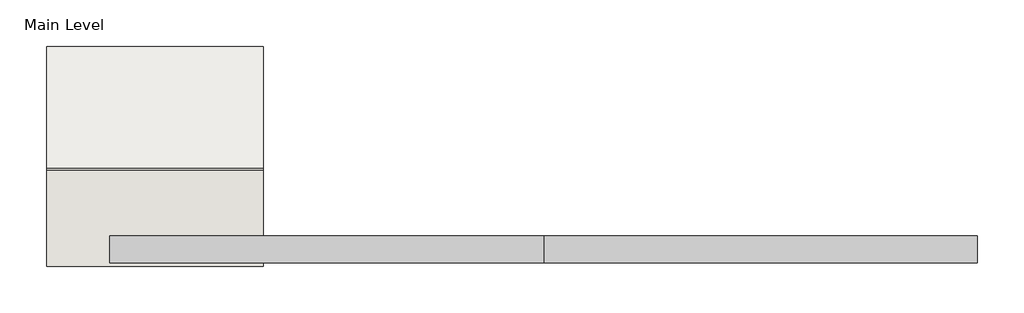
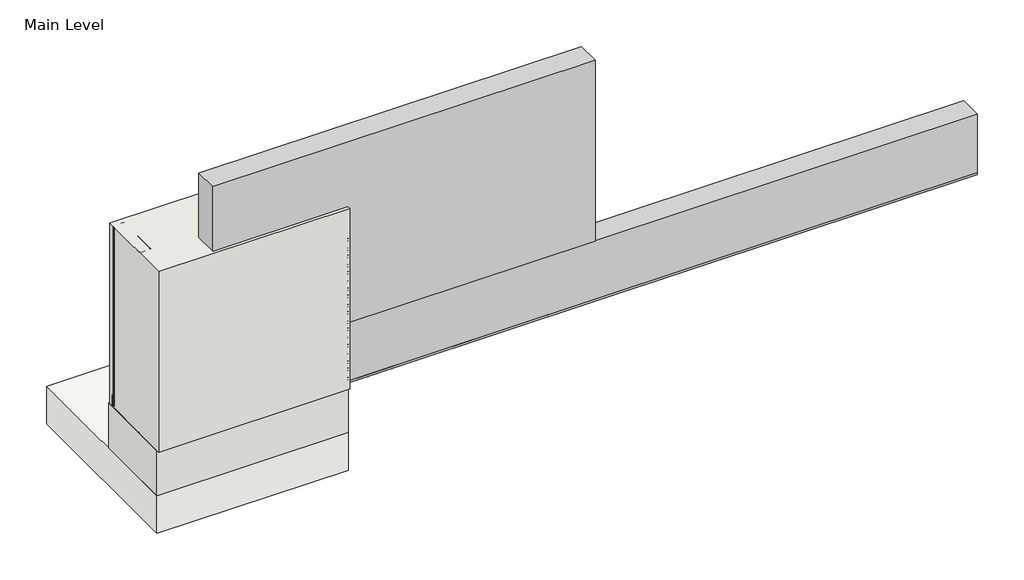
# One storey, incomplete: 6 proxies, 2 walls, 1 slab.
"""IFC4 building model written with IfcOpenShell, lengths in millimetres."""

from ifc_helpers import new_model, si_unit, frame, origin, origin_with_axes, place, context, project, spatial, polyline, outline, extrude, transform, mapped, element, save
from components import generic_models_31547c53, generic_models_0bbfdc8f, generic_models_1e1ad44f, generic_models_7dd17a53, generic_models_441de798, generic_models_9d0e7a2a, proxy_81afb05a, proxy_e5e434bb, wood_blocking_9d9260b2

model = new_model("IFC4")

# Units and contexts
model_context = context("Model", 3, world=origin())
ifc_project = project(units=[si_unit("LENGTHUNIT", "METRE", prefix="MILLI")], contexts=[model_context])

# Site, building, storey
site = spatial("IfcSite", under=ifc_project)
building = spatial("IfcBuilding", under=site)
storey = spatial("IfcBuildingStorey", under=building, Name="Main Level", Elevation=0.0)

# Proxies
placement = place(None, origin())
generic_models_shape = generic_models_31547c53(model_context)
element("IfcBuildingElementProxy", 1, Name="Durabond Generic Model Sealant Vent : Durabond Generic Model Sealant Vent", ObjectType="Durabond Generic Model Sealant Vent : Durabond Generic Model Sealant Vent", at=placement, inside=storey, context=model_context, shape_type="MappedRepresentation", body=[
    mapped(generic_models_shape, transform((26865.4101773, 546.8432813, 8.5594788), x_axis=(1.0, 0.0, 0.0), y_axis=(0.0, 0.08715574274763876, -0.9961946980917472), z_axis=(0.0, 0.9961946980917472, 0.08715574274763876))),
])
generic_models_2_shape = generic_models_0bbfdc8f(model_context)
generic_models_3_shape = generic_models_1e1ad44f(model_context)
generic_models_4_shape = generic_models_7dd17a53(model_context)
generic_models_5_shape = generic_models_441de798(model_context)
element("IfcBuildingElementProxy", 2, Name="CRAi Generic Model Mesh Piece Face Based : CRAi Generic Model Mesh Piece Face Based", ObjectType="CRAi Generic Model Mesh Piece Face Based : CRAi Generic Model Mesh Piece Face Based", at=placement, inside=storey, context=model_context, shape_type="MappedRepresentation", body=[
    mapped(generic_models_2_shape, transform((26933.6726773, 541.9066297, 261.6963215), x_axis=(-1.0, 0.0, 0.0), y_axis=(0.0, 0.0, -1.0), z_axis=(0.0, -1.0, 0.0))),
    mapped(generic_models_3_shape, transform((26933.6726773, 541.9066297, 261.6963215), x_axis=(-1.0, 0.0, 0.0), y_axis=(0.0, 0.0, -1.0), z_axis=(0.0, -1.0, 0.0))),
    mapped(generic_models_4_shape, transform((26933.6726773, 541.9066297, 261.6963215), x_axis=(-1.0, 0.0, 0.0), y_axis=(0.0, 0.0, -1.0), z_axis=(0.0, -1.0, 0.0))),
    mapped(generic_models_5_shape, transform((26933.6726773, 541.9066297, 261.6963215), x_axis=(-1.0, 0.0, 0.0), y_axis=(0.0, 0.0, -1.0), z_axis=(0.0, -1.0, 0.0))),
])
generic_models_6_shape = generic_models_9d0e7a2a(model_context)
element("IfcBuildingElementProxy", 3, Name="CRAi Generic Model Metal Stud Array : CRAi Generic Model Metal Stud Array", ObjectType="CRAi Generic Model Metal Stud Array : CRAi Generic Model Metal Stud Array", at=placement, inside=storey, context=model_context, shape_type="MappedRepresentation", body=[
    mapped(generic_models_6_shape, transform((26692.3726773, 719.7066297, 6.35), x_axis=(-1.0, 0.0, 0.0), y_axis=(0.0, -1.0, 0.0), z_axis=(0.0, 0.0, 1.0))),
])
proxy_shape = proxy_81afb05a(model_context)
element("IfcBuildingElementProxy", 4, Name="Durabond Generic Model Equalite Insulation Board : 3\"", ObjectType="Durabond Generic Model Equalite Insulation Board : 3\"", at=placement, inside=storey, context=model_context, shape_type="MappedRepresentation", body=[
    mapped(proxy_shape, transform((27276.5726773, 624.4566297, 523.392643), x_axis=(1.0, 0.0, 0.0), y_axis=(0.0, 0.0, 1.0), z_axis=(0.0, -1.0, 0.0))),
])
proxy_2_shape = proxy_e5e434bb(model_context)
element("IfcBuildingElementProxy", 5, Name="Durabond Generic Model Equalite Vent Board : 3\"", ObjectType="Durabond Generic Model Equalite Vent Board : 3\"", at=placement, inside=storey, context=model_context, shape_type="MappedRepresentation", body=[
    mapped(proxy_2_shape, transform((27886.1726773, 624.4566297, 116.992643), x_axis=(1.0, 0.0, 0.0), y_axis=(0.0, 0.0, 1.0), z_axis=(0.0, -1.0, 0.0))),
])
wood_blocking_shape = wood_blocking_9d9260b2(model_context)
element("IfcBuildingElementProxy", 6, Name="CRAi Generic Model Line Based Metal Framing Track : Wood Blocking", ObjectType="CRAi Generic Model Line Based Metal Framing Track : Wood Blocking", at=placement, inside=storey, context=model_context, shape_type="MappedRepresentation", body=[
    mapped(wood_blocking_shape, transform((27094.739438, 795.9066297, 0.0), x_axis=(-1.0, 0.0, 0.0), y_axis=(0.0, -1.0, 0.0), z_axis=(0.0, 0.0, 1.0))),
])

# Slab
element("IfcSlab", 7, ObjectType="CRAi Concrete Floor - 5\"", at=placement, inside=storey, context=model_context, shape_type="SweptSolid", body=[
    extrude(outline(polyline([(27098.7726773, 548.2566297), (26489.1726773, 548.2566297), (26489.1726773, 1157.8566297), (27098.7726773, 1157.8566297), (27098.7726773, 548.2566297)])), frame((0.0, 0.0, -279.4), z_axis=(0.0, 0.0, 1.0), x_axis=(1.0, 0.0, 0.0)), (0.0, 0.0, 1.0), 127.0),
])

# Walls
element("IfcWall", 8, ObjectType="189mm (7.5”) EIFS Field Applied on Mtl. Stud Layer - 50mm Grooved Insulation Board Metal Stud Wall(AirStop) 2", at=placement, inside=storey, context=model_context, shape_type="SweptSolid", body=[
    extrude(outline(polyline([(27098.7726773, 538.7316297), (26489.1726773, 538.7316297), (26489.1726773, 808.6066297), (27098.7726773, 808.6066297), (27098.7726773, 538.7316297)])), origin_with_axes(), (0.0, 0.0, 1.0), 609.6),
])
element("IfcWall", 9, ObjectType="Durabond 10.5\" Concrete Curb", at=placement, inside=storey, context=model_context, shape_type="SweptSolid", body=[
    extrude(outline(polyline([(27098.7726773, 548.2566297), (26489.1726773, 548.2566297), (26489.1726773, 814.9566297), (27098.7726773, 814.9566297), (27098.7726773, 548.2566297)])), frame((0.0, 0.0, -152.4), z_axis=(0.0, 0.0, 1.0), x_axis=(1.0, 0.0, 0.0)), (0.0, 0.0, 1.0), 152.4),
])

save(model, "model.ifc")
